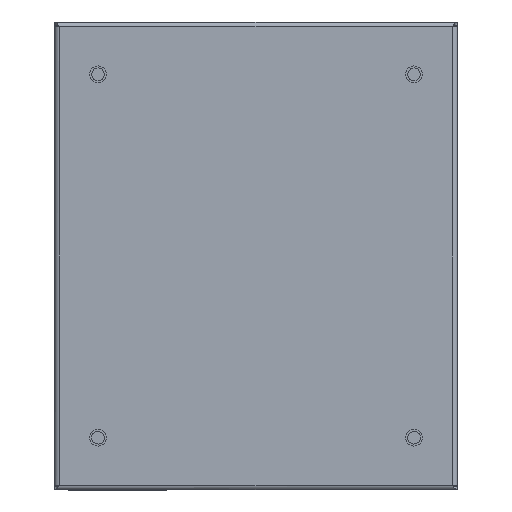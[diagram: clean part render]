
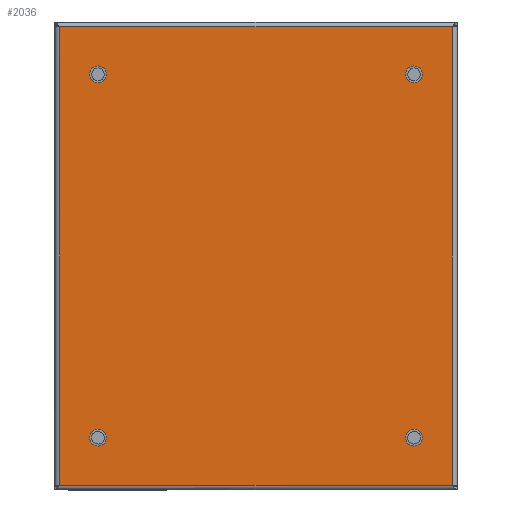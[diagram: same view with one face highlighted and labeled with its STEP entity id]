
A CAD part, front view. The second image highlights one B-rep face of the part: STEP entity #2036.
In plain terms, the highlighted planar face has unit normal (0, -1, 0) as drawn and (0, 0, 1) by its records, which use the part's own axes.
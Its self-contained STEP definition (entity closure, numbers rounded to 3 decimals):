
#1376=CARTESIAN_POINT(' ',(66.5,-76.5,0.));
#1381=DIRECTION(' ',(0.,0.,-1.));
#1386=DIRECTION(' ',(1.,0.,0.));
#1391=AXIS2_PLACEMENT_3D(' ',#1376,#1381,#1386);
#1396=CIRCLE('',#1391,3.5);
#1401=CARTESIAN_POINT(' ',(70.,-76.5,0.));
#1402=VERTEX_POINT(' ',#1401);
#1406=CARTESIAN_POINT(' ',(63.,-76.5,0.));
#1407=VERTEX_POINT(' ',#1406);
#1411=EDGE_CURVE(' ',#1402,#1407,#1396,.T.);
#1541=DIRECTION(' ',(-0.,-0.,1.));
#1546=CARTESIAN_POINT(' ',(82.65,-96.4,0.));
#1551=DIRECTION(' ',(0.,1.,0.));
#1556=AXIS2_PLACEMENT_3D(' ',#1546,#1541,#1551);
#1561=PLANE('NONE',#1556);
#1566=CARTESIAN_POINT(' ',(82.65,-96.4,0.));
#1571=DIRECTION(' ',(0.,1.,0.));
#1576=VECTOR(' ',#1571,1.);
#1581=LINE('',#1566,#1576);
#1586=CARTESIAN_POINT(' ',(82.65,-96.4,0.));
#1587=VERTEX_POINT(' ',#1586);
#1591=CARTESIAN_POINT(' ',(82.65,96.4,0.));
#1592=VERTEX_POINT(' ',#1591);
#1596=EDGE_CURVE(' ',#1587,#1592,#1581,.T.);
#1601=ORIENTED_EDGE(' ',*,*,#1596,.T.);
#1606=CARTESIAN_POINT(' ',(82.65,96.4,0.));
#1611=DIRECTION(' ',(-1.,0.,0.));
#1616=VECTOR(' ',#1611,1.);
#1621=LINE('',#1606,#1616);
#1626=CARTESIAN_POINT(' ',(-82.65,96.4,0.));
#1627=VERTEX_POINT(' ',#1626);
#1631=EDGE_CURVE(' ',#1592,#1627,#1621,.T.);
#1636=ORIENTED_EDGE(' ',*,*,#1631,.T.);
#1641=CARTESIAN_POINT(' ',(-82.65,96.4,0.));
#1646=DIRECTION(' ',(0.,-1.,0.));
#1651=VECTOR(' ',#1646,1.);
#1656=LINE('',#1641,#1651);
#1661=CARTESIAN_POINT(' ',(-82.65,-96.4,0.));
#1662=VERTEX_POINT(' ',#1661);
#1666=EDGE_CURVE(' ',#1627,#1662,#1656,.T.);
#1671=ORIENTED_EDGE(' ',*,*,#1666,.T.);
#1676=CARTESIAN_POINT(' ',(-82.65,-96.4,0.));
#1681=DIRECTION(' ',(1.,0.,0.));
#1686=VECTOR(' ',#1681,1.);
#1691=LINE('',#1676,#1686);
#1696=EDGE_CURVE(' ',#1662,#1587,#1691,.T.);
#1701=ORIENTED_EDGE(' ',*,*,#1696,.T.);
#1706=EDGE_LOOP(' ',(#1601,#1636,#1671,#1701));
#1711=FACE_OUTER_BOUND(' ',#1706,.T.);
#1716=CARTESIAN_POINT(' ',(66.5,-76.5,0.));
#1721=DIRECTION(' ',(0.,-0.,-1.));
#1726=DIRECTION(' ',(-1.,0.,0.));
#1731=AXIS2_PLACEMENT_3D(' ',#1716,#1721,#1726);
#1736=CIRCLE('',#1731,3.5);
#1741=EDGE_CURVE(' ',#1407,#1402,#1736,.T.);
#1746=ORIENTED_EDGE(' ',*,*,#1741,.T.);
#1751=ORIENTED_EDGE(' ',*,*,#1411,.T.);
#1756=EDGE_LOOP(' ',(#1746,#1751));
#1761=FACE_BOUND(' ',#1756,.T.);
#1766=CARTESIAN_POINT(' ',(-66.5,-76.5,0.));
#1771=DIRECTION(' ',(0.,-0.,-1.));
#1776=DIRECTION(' ',(-1.,0.,0.));
#1781=AXIS2_PLACEMENT_3D(' ',#1766,#1771,#1776);
#1786=CIRCLE('',#1781,3.5);
#1791=CARTESIAN_POINT(' ',(-70.,-76.5,0.));
#1792=VERTEX_POINT(' ',#1791);
#1796=CARTESIAN_POINT(' ',(-63.,-76.5,0.));
#1797=VERTEX_POINT(' ',#1796);
#1801=EDGE_CURVE(' ',#1792,#1797,#1786,.T.);
#1806=ORIENTED_EDGE(' ',*,*,#1801,.T.);
#1811=CARTESIAN_POINT(' ',(-66.5,-76.5,0.));
#1816=DIRECTION(' ',(0.,0.,-1.));
#1821=DIRECTION(' ',(1.,0.,0.));
#1826=AXIS2_PLACEMENT_3D(' ',#1811,#1816,#1821);
#1831=CIRCLE('',#1826,3.5);
#1836=EDGE_CURVE(' ',#1797,#1792,#1831,.T.);
#1841=ORIENTED_EDGE(' ',*,*,#1836,.T.);
#1846=EDGE_LOOP(' ',(#1806,#1841));
#1851=FACE_BOUND(' ',#1846,.T.);
#1856=CARTESIAN_POINT(' ',(66.5,76.5,0.));
#1861=DIRECTION(' ',(0.,-0.,-1.));
#1866=DIRECTION(' ',(-1.,0.,0.));
#1871=AXIS2_PLACEMENT_3D(' ',#1856,#1861,#1866);
#1876=CIRCLE('',#1871,3.5);
#1881=CARTESIAN_POINT(' ',(63.,76.5,0.));
#1882=VERTEX_POINT(' ',#1881);
#1886=CARTESIAN_POINT(' ',(70.,76.5,0.));
#1887=VERTEX_POINT(' ',#1886);
#1891=EDGE_CURVE(' ',#1882,#1887,#1876,.T.);
#1896=ORIENTED_EDGE(' ',*,*,#1891,.T.);
#1901=CARTESIAN_POINT(' ',(66.5,76.5,0.));
#1906=DIRECTION(' ',(0.,0.,-1.));
#1911=DIRECTION(' ',(1.,0.,0.));
#1916=AXIS2_PLACEMENT_3D(' ',#1901,#1906,#1911);
#1921=CIRCLE('',#1916,3.5);
#1926=EDGE_CURVE(' ',#1887,#1882,#1921,.T.);
#1931=ORIENTED_EDGE(' ',*,*,#1926,.T.);
#1936=EDGE_LOOP(' ',(#1896,#1931));
#1941=FACE_BOUND(' ',#1936,.T.);
#1946=CARTESIAN_POINT(' ',(-66.5,76.5,0.));
#1951=DIRECTION(' ',(0.,-0.,-1.));
#1956=DIRECTION(' ',(-1.,0.,0.));
#1961=AXIS2_PLACEMENT_3D(' ',#1946,#1951,#1956);
#1966=CIRCLE('',#1961,3.5);
#1971=CARTESIAN_POINT(' ',(-70.,76.5,0.));
#1972=VERTEX_POINT(' ',#1971);
#1976=CARTESIAN_POINT(' ',(-63.,76.5,0.));
#1977=VERTEX_POINT(' ',#1976);
#1981=EDGE_CURVE(' ',#1972,#1977,#1966,.T.);
#1986=ORIENTED_EDGE(' ',*,*,#1981,.T.);
#1991=CARTESIAN_POINT(' ',(-66.5,76.5,0.));
#1996=DIRECTION(' ',(0.,0.,-1.));
#2001=DIRECTION(' ',(1.,0.,0.));
#2006=AXIS2_PLACEMENT_3D(' ',#1991,#1996,#2001);
#2011=CIRCLE('',#2006,3.5);
#2016=EDGE_CURVE(' ',#1977,#1972,#2011,.T.);
#2021=ORIENTED_EDGE(' ',*,*,#2016,.T.);
#2026=EDGE_LOOP(' ',(#1986,#2021));
#2031=FACE_BOUND(' ',#2026,.T.);
#2036=ADVANCED_FACE('NONE',(#1711,#1761,#1851,#1941,#2031),#1561,.T.);
